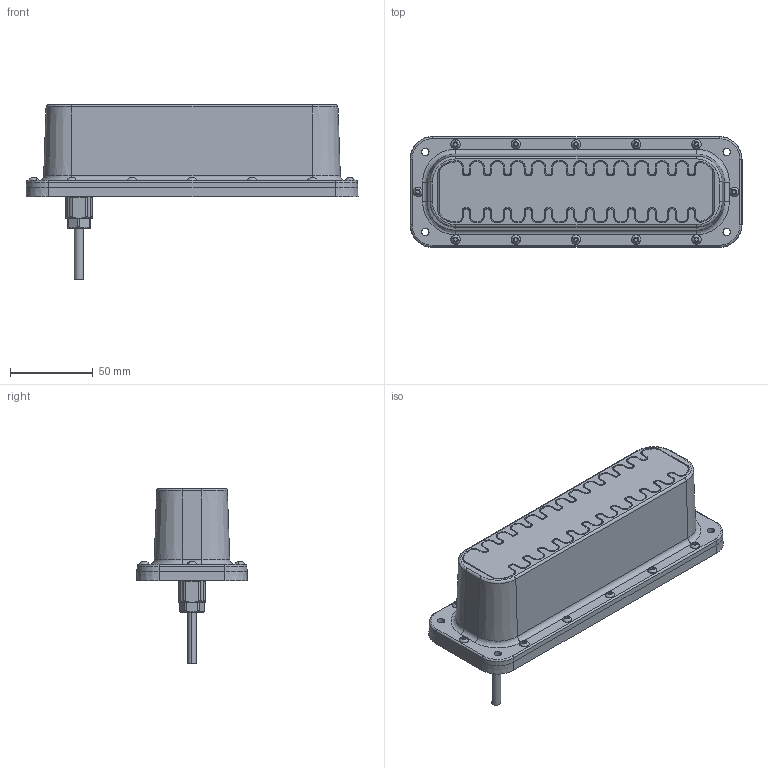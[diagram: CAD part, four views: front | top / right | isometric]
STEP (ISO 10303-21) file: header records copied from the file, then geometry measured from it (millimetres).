
FILE_DESCRIPTION (( 'STEP AP214' ), '1' );
FILE_NAME ('CERULEAN-OMNISCAN-450FS.STEP', '2025-03-17T19:50:10', ( '' ), ( '' ), 'SwSTEP 2.0', 'SolidWorks 2024', '' );
FILE_SCHEMA (( 'AUTOMOTIVE_DESIGN' ));
Length unit declared in the file: millimetre
Products named in the file (1): CERULEAN-OMNISCAN-450FS
Bounding box: 201.18 x 67.18 x 106 mm (x, y, z)
Surface area: 77235.5 mm2 (no closed solid volume)
Topology: 0 solids, 30 shells, 725 faces, 2172 edges, 1452 vertices
Faces by surface type: plane 286, cylinder 203, cone 147, bspline 65, sphere 24
Entity records: 29419 total; most frequent: CARTESIAN_POINT 11122, DIRECTION 3736, ORIENTED_EDGE 3546, EDGE_CURVE 2172, VERTEX_POINT 1452, AXIS2_PLACEMENT_3D 1320, LINE 1096, VECTOR 1096
